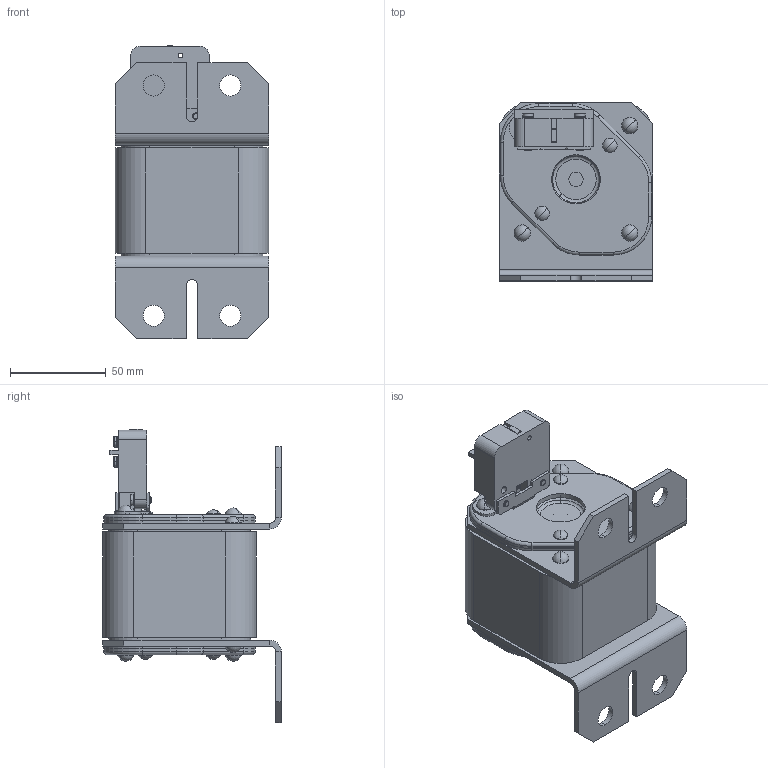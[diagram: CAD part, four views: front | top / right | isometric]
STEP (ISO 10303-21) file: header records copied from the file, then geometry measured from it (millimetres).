
FILE_DESCRIPTION (( 'STEP AP214' ), '1' );
FILE_NAME ('ﾏﾏ60ﾑ-41ﾒ2-1000ﾀ-ﾓﾕﾋ2-ﾊﾝﾀﾇ.STEP', '2023-04-11T08:02:14', ( '' ), ( '' ), 'SwSTEP 2.0', 'SolidWorks 2018', '' );
FILE_SCHEMA (( 'AUTOMOTIVE_DESIGN' ));
Length unit declared in the file: millimetre
Products named in the file (1): ﾏﾏ60ﾑ-41ﾒ2-1000ﾀ-ﾓﾕﾋ2-ﾊﾝﾀﾇ
Bounding box: 80 x 93 x 153 mm (x, y, z)
Volume: 468214 mm3; surface area: 158158.6 mm2
Topology: 39 solids, 39 shells, 788 faces, 1844 edges, 1178 vertices
Faces by surface type: cylinder 364, plane 281, torus 88, cone 30, sphere 24, bspline 1
Entity records: 32196 total; most frequent: DIRECTION 4386, CARTESIAN_POINT 3886, ORIENTED_EDGE 3688, EDGE_CURVE 1844, AXIS2_PLACEMENT_3D 1760, VERTEX_POINT 1178, EDGE_LOOP 984, CIRCLE 972
